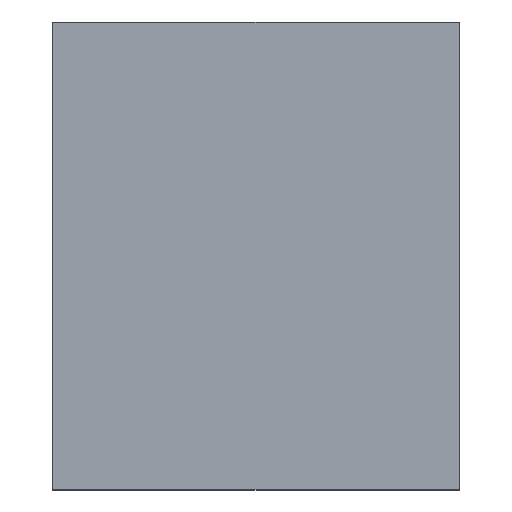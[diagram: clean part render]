
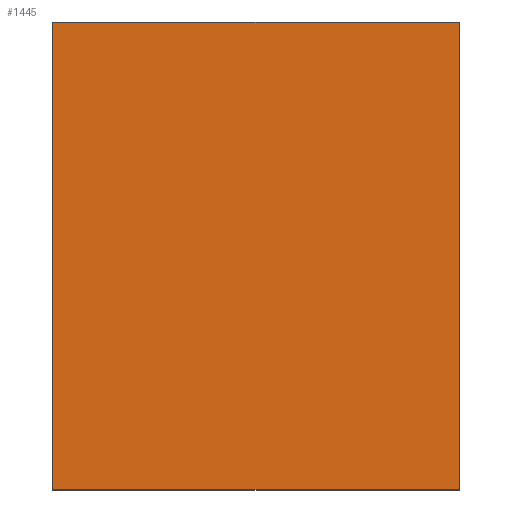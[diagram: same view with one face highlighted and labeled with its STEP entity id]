
A CAD part, top view. The second image highlights one B-rep face of the part: STEP entity #1445.
In plain terms, the highlighted planar face has unit normal (0, 0, 1).
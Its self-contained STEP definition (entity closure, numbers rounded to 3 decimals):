
#26 = DIRECTION ( 'NONE',  ( 0., -1., 0. ) ) ;
#41 = LINE ( 'NONE', #1190, #1326 ) ;
#60 = VECTOR ( 'NONE', #1525, 1000. ) ;
#114 = EDGE_CURVE ( 'NONE', #1245, #1467, #935, .T. ) ;
#142 = VERTEX_POINT ( 'NONE', #796 ) ;
#183 = EDGE_CURVE ( 'NONE', #142, #1526, #41, .T. ) ;
#254 = ORIENTED_EDGE ( 'NONE', *, *, #454, .F. ) ;
#378 = AXIS2_PLACEMENT_3D ( 'NONE', #1037, #561, #1522 ) ;
#454 = EDGE_CURVE ( 'NONE', #1467, #1526, #691, .T. ) ;
#455 = LINE ( 'NONE', #1167, #60 ) ;
#488 = EDGE_LOOP ( 'NONE', ( #1531, #254, #648, #1462 ) ) ;
#561 = DIRECTION ( 'NONE',  ( 0., 0., -1. ) ) ;
#648 = ORIENTED_EDGE ( 'NONE', *, *, #114, .F. ) ;
#679 = CARTESIAN_POINT ( 'NONE',  ( 40., -23., 23. ) ) ;
#680 = FACE_OUTER_BOUND ( 'NONE', #488, .T. ) ;
#691 = LINE ( 'NONE', #1494, #872 ) ;
#793 = EDGE_CURVE ( 'NONE', #1245, #142, #455, .T. ) ;
#796 = CARTESIAN_POINT ( 'NONE',  ( 0., 23., 23. ) ) ;
#801 = CARTESIAN_POINT ( 'NONE',  ( 40., 23., 23. ) ) ;
#872 = VECTOR ( 'NONE', #1007, 1000. ) ;
#935 = LINE ( 'NONE', #679, #1073 ) ;
#943 = CARTESIAN_POINT ( 'NONE',  ( 40., -23., 23. ) ) ;
#1007 = DIRECTION ( 'NONE',  ( -1., 0., 0. ) ) ;
#1037 = CARTESIAN_POINT ( 'NONE',  ( 40., -23., 23. ) ) ;
#1062 = DIRECTION ( 'NONE',  ( 0., -1., 0. ) ) ;
#1073 = VECTOR ( 'NONE', #1062, 1000. ) ;
#1165 = PLANE ( 'NONE',  #378 ) ;
#1167 = CARTESIAN_POINT ( 'NONE',  ( 40., 23., 23. ) ) ;
#1190 = CARTESIAN_POINT ( 'NONE',  ( 0., -23., 23. ) ) ;
#1245 = VERTEX_POINT ( 'NONE', #801 ) ;
#1326 = VECTOR ( 'NONE', #26, 1000. ) ;
#1438 = CARTESIAN_POINT ( 'NONE',  ( 0., -23., 23. ) ) ;
#1445 = ADVANCED_FACE ( 'NONE', ( #680 ), #1165, .F. ) ;
#1462 = ORIENTED_EDGE ( 'NONE', *, *, #793, .T. ) ;
#1467 = VERTEX_POINT ( 'NONE', #943 ) ;
#1494 = CARTESIAN_POINT ( 'NONE',  ( 40., -23., 23. ) ) ;
#1522 = DIRECTION ( 'NONE',  ( -1., 0., 0. ) ) ;
#1525 = DIRECTION ( 'NONE',  ( -1., 0., 0. ) ) ;
#1526 = VERTEX_POINT ( 'NONE', #1438 ) ;
#1531 = ORIENTED_EDGE ( 'NONE', *, *, #183, .T. ) ;
